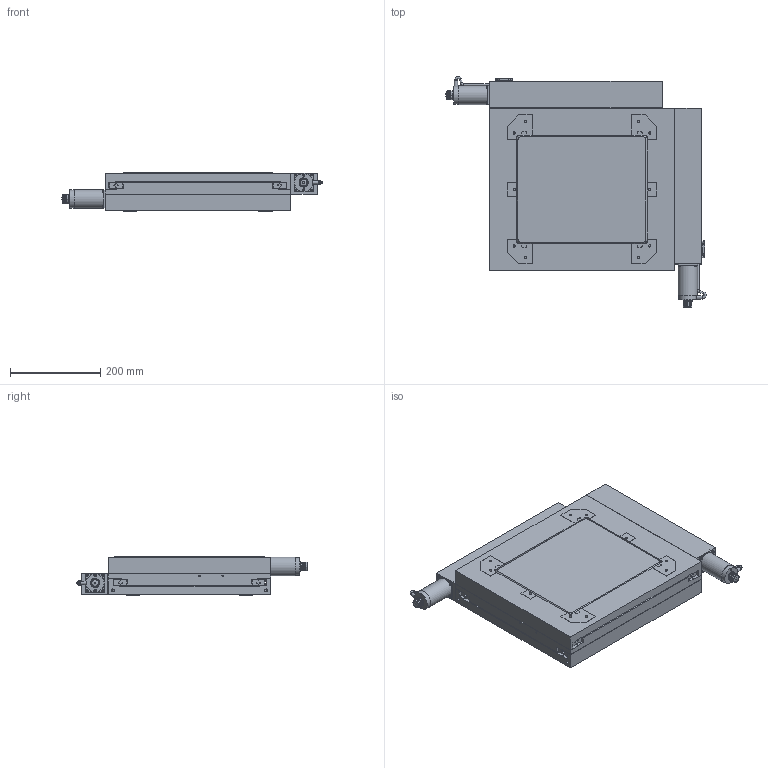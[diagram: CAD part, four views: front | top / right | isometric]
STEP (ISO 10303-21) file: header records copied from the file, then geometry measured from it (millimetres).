
FILE_DESCRIPTION(/* description */ (''),/* implementation_level */ '2;1');
FILE_NAME(/* name */ 'H:\Inventor\Katalog\3D-CAD-Modelle\STP neu\KT8-NSxx-CAD.stp',/* time_stamp */ '2024-01-17T14:44:51+01:00',/* author */ ('KON3'),/* organization */ (''),/* preprocessor_version */ 'ST-DEVELOPER v18',/* originating_system */ 'Autodesk Inventor 2020',/* authorisation */ '');
FILE_SCHEMA (('AUTOMOTIVE_DESIGN { 1 0 10303 214 3 1 1 }'));
Products named in the file (5): KT8-NSxx-CAD; KT8-NSxx_unten; KT8-NSxx_mitte; KT8-NSxx_NGxx_oben; KT8.44
Assembly tree (4 placements, depth 2):
  KT8-NSxx-CAD
    KT8-NSxx_unten
    KT8-NSxx_mitte
    KT8-NSxx_NGxx_oben
    KT8.44
Bounding box: 576.61 x 511.61 x 85 mm (x, y, z)
Volume: 12010755.9 mm3; surface area: 1565121.8 mm2
Topology: 68 solids, 68 shells, 2861 faces, 7393 edges, 4952 vertices
Faces by surface type: plane 1700, cylinder 613, bspline 388, cone 122, torus 36, sphere 2
Full cylindrical faces by diameter (mm): 1 x60, 2.1 x2, 2.156 x4, 3 x12, 3.2 x12, 3.242 x11, 4 x4, 4.134 x45, 4.2 x10, 4.3 x8, 4.917 x76, 5 x10, 5.3 x2, 5.5 x8, 6.647 x4, 9.5 x76, 10 x20, 22 x2, 23 x2, 40 x2, 42 x2, 81 x1
Entity records: 94605 total; most frequent: CARTESIAN_POINT 22225, ORIENTED_EDGE 14594, DIRECTION 13343, EDGE_CURVE 7297, VERTEX_POINT 4952, LINE 4587, VECTOR 4587, AXIS2_PLACEMENT_3D 4378
